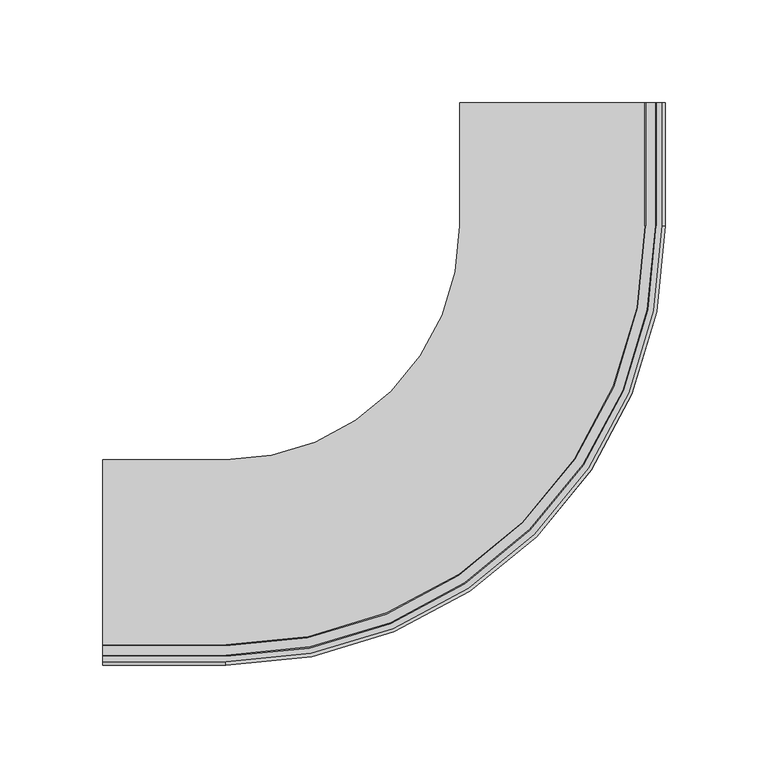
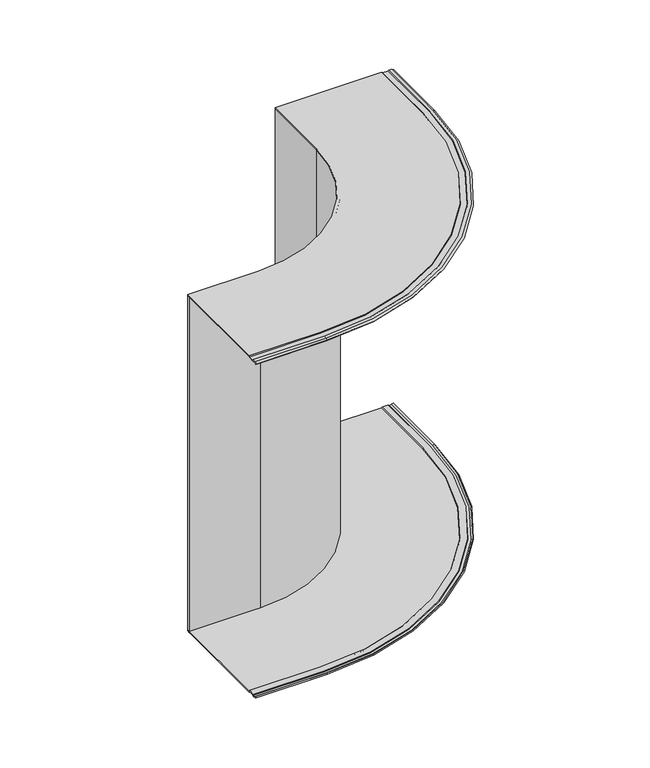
"""IFC4 building model written with IfcOpenShell, lengths in millimetres: cable carrier fitting geometry, CXERC_Vertical_Outside_Bend-Basortray : Basortray CXERC-GS."""

from ifc_helpers import new_model, si_unit, point, frame, frame_2d, origin, place, context, project, spatial, polyline, circle_curve, trimmed, segment, composite_curve, outline, extrude, source, transform, mapped, element, save
from ifc_brep_helpers import plane_surface, revolved_surface, advanced_brep


def cable_carrier_fitting_583218a9(model_context):
    return source(origin(), model_context, "Body", "SolidModel", [
        advanced_brep(
        [(40.0, 224.0, 150.0), (40.6279591, 224.0, 149.3720409), (45.1162288, 224.0, 149.3720409), (45.7441879, 224.0, 150.0), (48.3605738, 224.0, 150.0), (50.0, 224.0, 148.8520614), (49.4264236, 224.0, 148.0329093), (48.045275, 224.0, 149.0), (46.1584014, 224.0, 149.0), (45.5304423, 224.0, 148.3720409), (40.2137455, 224.0, 148.3720409), (39.5857864, 224.0, 149.0), (-50.0, 224.0, 149.0), (-50.0, 224.0, 150.0), (40.0, 164.0, 150.0), (40.6279591, 164.0, 149.3720409), (-164.0, -40.6279591, 149.3720409), (-224.0, -40.6279591, 149.3720409), (-224.0, -45.1162288, 149.3720409), (-164.0, -45.1162288, 149.3720409), (45.1162288, 164.0, 149.3720409), (45.7441879, 164.0, 150.0), (-164.0, -45.7441879, 150.0), (-224.0, -45.7441879, 150.0), (-224.0, -48.3605738, 150.0), (-164.0, -48.3605738, 150.0), (48.3605738, 164.0, 150.0), (50.0, 164.0, 148.8520614), (49.4264236, 164.0, 148.0329093), (48.045275, 164.0, 149.0), (-164.0, -48.045275, 149.0), (-224.0, -48.045275, 149.0), (-224.0, -46.1584014, 149.0), (-164.0, -46.1584014, 149.0), (46.1584014, 164.0, 149.0), (45.5304423, 164.0, 148.3720409), (-164.0, -45.5304423, 148.3720409), (-224.0, -45.5304423, 148.3720409), (-224.0, -40.2137455, 148.3720409), (-164.0, -40.2137455, 148.3720409), (40.2137455, 164.0, 148.3720409), (39.5857864, 164.0, 149.0), (-164.0, -39.5857864, 149.0), (-224.0, -39.5857864, 149.0), (-224.0, 50.0, 149.0), (-164.0, 50.0, 149.0), (-50.0, 164.0, 149.0), (-50.0, 164.0, 150.0), (-164.0, 50.0, 150.0), (-224.0, 50.0, 150.0), (-224.0, -40.0, 150.0), (-164.0, -40.0, 150.0), (-164.0, -50.0, 148.8520614), (-164.0, -49.4264236, 148.0329093), (-224.0, -49.4264236, 148.0329093), (-224.0, -50.0, 148.8520614)],
        [
            (0, 1),
            (1, 2),
            (2, 3),
            (3, 4),
            (4, 5),
            (5, 6),
            (6, 7),
            (7, 8),
            (8, 9),
            (9, 10),
            (10, 11),
            (11, 12),
            (12, 13),
            (13, 0),
            (0, 14),
            (14, 15),
            (15, 1),
            (15, 16, circle_curve(frame((-164.0, 164.0, 149.3720409), z_axis=(0.0, 0.0, -1.0), x_axis=(1.0, 0.0, 0.0)), 204.6279591)),
            (16, 17),
            (17, 18),
            (18, 19),
            (19, 20, circle_curve(frame((-164.0, 164.0, 149.3720409), z_axis=(0.0, 0.0, 1.0), x_axis=(1.0, 0.0, 0.0)), 209.1162288)),
            (20, 2),
            (20, 21),
            (21, 3),
            (21, 22, circle_curve(frame((-164.0, 164.0, 150.0), z_axis=(0.0, 0.0, -1.0), x_axis=(1.0, 0.0, 0.0)), 209.7441879)),
            (22, 23),
            (23, 24),
            (24, 25),
            (25, 26, circle_curve(frame((-164.0, 164.0, 150.0), z_axis=(0.0, 0.0, 1.0), x_axis=(1.0, 0.0, 0.0)), 212.3605738)),
            (26, 4),
            (26, 27),
            (27, 5),
            (27, 28),
            (28, 6),
            (28, 29),
            (29, 7),
            (29, 30, circle_curve(frame((-164.0, 164.0, 149.0), z_axis=(0.0, 0.0, -1.0), x_axis=(1.0, 0.0, 0.0)), 212.045275)),
            (30, 31),
            (31, 32),
            (32, 33),
            (33, 34, circle_curve(frame((-164.0, 164.0, 149.0), z_axis=(0.0, 0.0, 1.0), x_axis=(1.0, 0.0, 0.0)), 210.1584014)),
            (34, 8),
            (34, 35),
            (35, 9),
            (35, 36, circle_curve(frame((-164.0, 164.0, 148.3720409), z_axis=(0.0, 0.0, -1.0), x_axis=(1.0, 0.0, 0.0)), 209.5304423)),
            (36, 37),
            (37, 38),
            (38, 39),
            (39, 40, circle_curve(frame((-164.0, 164.0, 148.3720409), z_axis=(0.0, 0.0, 1.0), x_axis=(1.0, 0.0, 0.0)), 204.2137455)),
            (40, 10),
            (40, 41),
            (41, 11),
            (41, 42, circle_curve(frame((-164.0, 164.0, 149.0), z_axis=(0.0, 0.0, -1.0), x_axis=(1.0, 0.0, 0.0)), 203.5857864)),
            (42, 43),
            (43, 44),
            (44, 45),
            (45, 46, circle_curve(frame((-164.0, 164.0, 149.0), z_axis=(0.0, 0.0, 1.0), x_axis=(1.0, 0.0, 0.0)), 114.0)),
            (46, 12),
            (46, 47),
            (47, 13),
            (47, 48, circle_curve(frame((-164.0, 164.0, 150.0), z_axis=(0.0, 0.0, -1.0), x_axis=(1.0, 0.0, 0.0)), 114.0)),
            (48, 49),
            (49, 50),
            (50, 51),
            (51, 14, circle_curve(frame((-164.0, 164.0, 150.0), z_axis=(0.0, 0.0, 1.0), x_axis=(1.0, 0.0, 0.0)), 204.0)),
            (51, 16),
            (19, 22),
            (52, 27, circle_curve(frame((-164.0, 164.0, 148.8520614), z_axis=(0.0, 0.0, 1.0), x_axis=(1.0, 0.0, 0.0)), 214.0)),
            (25, 52),
            (53, 28, circle_curve(frame((-164.0, 164.0, 148.0329093), z_axis=(0.0, 0.0, 1.0), x_axis=(1.0, 0.0, 0.0)), 213.4264236)),
            (52, 53),
            (53, 30),
            (33, 36),
            (39, 42),
            (45, 48),
            (49, 44),
            (43, 38),
            (37, 32),
            (31, 54),
            (54, 55),
            (55, 24),
            (23, 18),
            (17, 50),
            (55, 52),
            (54, 53),
        ],
        [
            plane_surface(frame((-50.0, 224.0, 0.0), z_axis=(0.0, 1.0, 0.0), x_axis=(0.0, 0.0, 1.0))),
            plane_surface(frame((40.0, 224.0, 150.0), z_axis=(0.7071067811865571, 0.0, 0.707106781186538), x_axis=(0.0, -1.0, 0.0))),
            plane_surface(frame((40.6279591, 224.0, 149.3720409), z_axis=(0.0, 0.0, 1.0), x_axis=(0.0, -1.0, 0.0))),
            plane_surface(frame((45.1162288, 224.0, 149.3720409), z_axis=(-0.7071067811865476, 0.0, 0.7071067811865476), x_axis=(0.0, -1.0, 0.0))),
            plane_surface(frame((45.7441879, 224.0, 150.0), z_axis=(0.0, 0.0, 1.0), x_axis=(0.0, -1.0, 0.0))),
            plane_surface(frame((48.3605738, 224.0, 150.0), z_axis=(0.5735764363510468, 0.0, 0.8191520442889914), x_axis=(0.0, -1.0, 0.0))),
            plane_surface(frame((50.0, 224.0, 148.8520614), z_axis=(0.819152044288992, 0.0, -0.5735764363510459), x_axis=(0.0, -1.0, 0.0))),
            plane_surface(frame((49.4264236, 224.0, 148.0329093), z_axis=(-0.5735764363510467, 0.0, -0.8191520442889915), x_axis=(0.0, -1.0, 0.0))),
            plane_surface(frame((48.045275, 224.0, 149.0), z_axis=(0.0, 0.0, -1.0), x_axis=(0.0, -1.0, 0.0))),
            plane_surface(frame((46.1584014, 224.0, 149.0), z_axis=(0.7071067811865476, 0.0, -0.7071067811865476), x_axis=(0.0, -1.0, 0.0))),
            plane_surface(frame((45.5304423, 224.0, 148.3720409), z_axis=(0.0, 0.0, -1.0), x_axis=(0.0, -1.0, 0.0))),
            plane_surface(frame((40.2137455, 224.0, 148.3720409), z_axis=(-0.7071067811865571, 0.0, -0.707106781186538), x_axis=(0.0, -1.0, 0.0))),
            plane_surface(frame((39.5857864, 224.0, 149.0), z_axis=(0.0, 0.0, -1.0), x_axis=(0.0, -1.0, 0.0))),
            plane_surface(frame((-50.0, 224.0, 149.0), z_axis=(-1.0, 0.0, 0.0), x_axis=(0.0, -1.0, 0.0))),
            plane_surface(frame((-50.0, 224.0, 150.0), z_axis=(0.0, 0.0, 1.0), x_axis=(0.0, -1.0, 0.0))),
            revolved_surface(polyline([(40.0, 164.0, 150.0), (40.6279591, 164.0, 149.3720409)]), (-164.0, 164.0, 0.0), (0.0, 0.0, -1.0)),
            revolved_surface(polyline([(45.1162288, 164.0, 149.3720409), (45.7441879, 164.0, 150.0)]), (-164.0, 164.0, 0.0), (0.0, 0.0, -1.0)),
            revolved_surface(polyline([(48.3605738, 164.0, 150.0), (50.0, 164.0, 148.8520614)]), (-164.0, 164.0, 0.0), (0.0, 0.0, -1.0)),
            revolved_surface(polyline([(50.0, 164.0, 148.8520614), (49.4264236, 164.0, 148.0329093)]), (-164.0, 164.0, 0.0), (0.0, 0.0, -1.0)),
            revolved_surface(polyline([(49.4264236, 164.0, 148.0329093), (48.045275, 164.0, 149.0)]), (-164.0, 164.0, 0.0), (0.0, 0.0, -1.0)),
            revolved_surface(polyline([(46.1584014, 164.0, 149.0), (45.5304423, 164.0, 148.3720409)]), (-164.0, 164.0, 0.0), (0.0, 0.0, -1.0)),
            revolved_surface(polyline([(40.2137455, 164.0, 148.3720409), (39.5857864, 164.0, 149.0)]), (-164.0, 164.0, 0.0), (0.0, 0.0, -1.0)),
            revolved_surface(polyline([(-50.0, 164.0, 149.0), (-50.0, 164.0, 150.0)]), (-164.0, 164.0, 0.0), (0.0, 0.0, -1.0)),
            plane_surface(frame((-224.0, 50.0, 0.0), z_axis=(-1.0, 0.0, 0.0), x_axis=(0.0, 0.0, 1.0))),
            plane_surface(frame((-164.0, -40.0, 150.0), z_axis=(0.0, -0.7071067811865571, 0.707106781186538), x_axis=(-1.0, 0.0, 0.0))),
            plane_surface(frame((-164.0, -45.1162288, 149.3720409), z_axis=(0.0, 0.7071067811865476, 0.7071067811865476), x_axis=(-1.0, 0.0, 0.0))),
            plane_surface(frame((-164.0, -48.3605738, 150.0), z_axis=(0.0, -0.5735764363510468, 0.8191520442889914), x_axis=(-1.0, 0.0, 0.0))),
            plane_surface(frame((-164.0, -50.0, 148.8520614), z_axis=(0.0, -0.819152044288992, -0.5735764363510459), x_axis=(-1.0, 0.0, 0.0))),
            plane_surface(frame((-164.0, -49.4264236, 148.0329093), z_axis=(0.0, 0.5735764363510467, -0.8191520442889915), x_axis=(-1.0, 0.0, 0.0))),
            plane_surface(frame((-164.0, -46.1584014, 149.0), z_axis=(0.0, -0.7071067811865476, -0.7071067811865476), x_axis=(-1.0, 0.0, 0.0))),
            plane_surface(frame((-164.0, -40.2137455, 148.3720409), z_axis=(0.0, 0.7071067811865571, -0.707106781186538), x_axis=(-1.0, 0.0, 0.0))),
            plane_surface(frame((-164.0, 50.0, 149.0), z_axis=(0.0, 1.0, 0.0), x_axis=(-1.0, 0.0, 0.0))),
        ],
        [
            (0, [[1, 2, 3, 4, 5, 6, 7, 8, 9, 10, 11, 12, 13, 14]]),
            (1, [[-1, 15, 16, 17]]),
            (2, [[-2, -17, 18, 19, 20, 21, 22, 23]]),
            (3, [[-3, -23, 24, 25]]),
            (4, [[-4, -25, 26, 27, 28, 29, 30, 31]]),
            (5, [[-5, -31, 32, 33]]),
            (6, [[-6, -33, 34, 35]]),
            (7, [[-7, -35, 36, 37]]),
            (8, [[-8, -37, 38, 39, 40, 41, 42, 43]]),
            (9, [[-9, -43, 44, 45]]),
            (10, [[-10, -45, 46, 47, 48, 49, 50, 51]]),
            (11, [[-11, -51, 52, 53]]),
            (12, [[-12, -53, 54, 55, 56, 57, 58, 59]]),
            (13, [[-13, -59, 60, 61]]),
            (14, [[-14, -61, 62, 63, 64, 65, 66, -15]]),
            (15, [[-18, -16, -66, 67]]),
            (16, [[-26, -24, -22, 68]]),
            (17, [[69, -32, -30, 70]]),
            (18, [[71, -34, -69, 72]]),
            (19, [[-38, -36, -71, 73]]),
            (20, [[-46, -44, -42, 74]]),
            (21, [[-54, -52, -50, 75]]),
            (22, [[-62, -60, -58, 76]]),
            (23, [[-64, 77, -56, 78, -48, 79, -40, 80, 81, 82, -28, 83, -20, 84]]),
            (24, [[-67, -65, -84, -19]]),
            (25, [[-68, -21, -83, -27]]),
            (26, [[-70, -29, -82, 85]]),
            (27, [[-72, -85, -81, 86]]),
            (28, [[-73, -86, -80, -39]]),
            (29, [[-74, -41, -79, -47]]),
            (30, [[-75, -49, -78, -55]]),
            (31, [[-76, -57, -77, -63]]),
        ],
    ),
        advanced_brep(
        [(40.0, 224.0, -150.0), (-50.0, 224.0, -150.0), (-50.0, 224.0, -149.0), (39.5857864, 224.0, -149.0), (40.2137455, 224.0, -148.3720409), (45.5304423, 224.0, -148.3720409), (46.1584014, 224.0, -149.0), (48.045275, 224.0, -149.0), (49.4264236, 224.0, -148.0329093), (50.0, 224.0, -148.8520614), (48.3605738, 224.0, -150.0), (45.7441879, 224.0, -150.0), (45.1162288, 224.0, -149.3720409), (40.6279591, 224.0, -149.3720409), (40.0, 164.0, -150.0), (-164.0, -40.0, -150.0), (-224.0, -40.0, -150.0), (-224.0, 50.0, -150.0), (-164.0, 50.0, -150.0), (-50.0, 164.0, -150.0), (-50.0, 164.0, -149.0), (-164.0, 50.0, -149.0), (-224.0, 50.0, -149.0), (-224.0, -39.5857864, -149.0), (-164.0, -39.5857864, -149.0), (39.5857864, 164.0, -149.0), (40.2137455, 164.0, -148.3720409), (-164.0, -40.2137455, -148.3720409), (-224.0, -40.2137455, -148.3720409), (-224.0, -45.5304423, -148.3720409), (-164.0, -45.5304423, -148.3720409), (45.5304423, 164.0, -148.3720409), (46.1584014, 164.0, -149.0), (-164.0, -46.1584014, -149.0), (-224.0, -46.1584014, -149.0), (-224.0, -48.045275, -149.0), (-164.0, -48.045275, -149.0), (48.045275, 164.0, -149.0), (49.4264236, 164.0, -148.0329093), (50.0, 164.0, -148.8520614), (48.3605738, 164.0, -150.0), (-164.0, -48.3605738, -150.0), (-224.0, -48.3605738, -150.0), (-224.0, -45.7441879, -150.0), (-164.0, -45.7441879, -150.0), (45.7441879, 164.0, -150.0), (45.1162288, 164.0, -149.3720409), (-164.0, -45.1162288, -149.3720409), (-224.0, -45.1162288, -149.3720409), (-224.0, -40.6279591, -149.3720409), (-164.0, -40.6279591, -149.3720409), (40.6279591, 164.0, -149.3720409), (-164.0, -49.4264236, -148.0329093), (-164.0, -50.0, -148.8520614), (-224.0, -50.0, -148.8520614), (-224.0, -49.4264236, -148.0329093)],
        [
            (0, 1),
            (1, 2),
            (2, 3),
            (3, 4),
            (4, 5),
            (5, 6),
            (6, 7),
            (7, 8),
            (8, 9),
            (9, 10),
            (10, 11),
            (11, 12),
            (12, 13),
            (13, 0),
            (0, 14),
            (14, 15, circle_curve(frame((-164.0, 164.0, -150.0), z_axis=(0.0, 0.0, -1.0), x_axis=(1.0, 0.0, 0.0)), 204.0)),
            (15, 16),
            (16, 17),
            (17, 18),
            (18, 19, circle_curve(frame((-164.0, 164.0, -150.0), z_axis=(0.0, 0.0, 1.0), x_axis=(1.0, 0.0, 0.0)), 114.0)),
            (19, 1),
            (19, 20),
            (20, 2),
            (20, 21, circle_curve(frame((-164.0, 164.0, -149.0), z_axis=(0.0, 0.0, -1.0), x_axis=(1.0, 0.0, 0.0)), 114.0)),
            (21, 22),
            (22, 23),
            (23, 24),
            (24, 25, circle_curve(frame((-164.0, 164.0, -149.0), z_axis=(0.0, 0.0, 1.0), x_axis=(1.0, 0.0, 0.0)), 203.5857864)),
            (25, 3),
            (25, 26),
            (26, 4),
            (26, 27, circle_curve(frame((-164.0, 164.0, -148.3720409), z_axis=(0.0, 0.0, -1.0), x_axis=(1.0, 0.0, 0.0)), 204.2137455)),
            (27, 28),
            (28, 29),
            (29, 30),
            (30, 31, circle_curve(frame((-164.0, 164.0, -148.3720409), z_axis=(0.0, 0.0, 1.0), x_axis=(1.0, 0.0, 0.0)), 209.5304423)),
            (31, 5),
            (31, 32),
            (32, 6),
            (32, 33, circle_curve(frame((-164.0, 164.0, -149.0), z_axis=(0.0, 0.0, -1.0), x_axis=(1.0, 0.0, 0.0)), 210.1584014)),
            (33, 34),
            (34, 35),
            (35, 36),
            (36, 37, circle_curve(frame((-164.0, 164.0, -149.0), z_axis=(0.0, 0.0, 1.0), x_axis=(1.0, 0.0, 0.0)), 212.045275)),
            (37, 7),
            (37, 38),
            (38, 8),
            (38, 39),
            (39, 9),
            (39, 40),
            (40, 10),
            (40, 41, circle_curve(frame((-164.0, 164.0, -150.0), z_axis=(0.0, 0.0, -1.0), x_axis=(1.0, 0.0, 0.0)), 212.3605738)),
            (41, 42),
            (42, 43),
            (43, 44),
            (44, 45, circle_curve(frame((-164.0, 164.0, -150.0), z_axis=(0.0, 0.0, 1.0), x_axis=(1.0, 0.0, 0.0)), 209.7441879)),
            (45, 11),
            (45, 46),
            (46, 12),
            (46, 47, circle_curve(frame((-164.0, 164.0, -149.3720409), z_axis=(0.0, 0.0, -1.0), x_axis=(1.0, 0.0, 0.0)), 209.1162288)),
            (47, 48),
            (48, 49),
            (49, 50),
            (50, 51, circle_curve(frame((-164.0, 164.0, -149.3720409), z_axis=(0.0, 0.0, 1.0), x_axis=(1.0, 0.0, 0.0)), 204.6279591)),
            (51, 13),
            (51, 14),
            (18, 21),
            (24, 27),
            (30, 33),
            (52, 38, circle_curve(frame((-164.0, 164.0, -148.0329093), z_axis=(0.0, 0.0, 1.0), x_axis=(1.0, 0.0, 0.0)), 213.4264236)),
            (36, 52),
            (53, 39, circle_curve(frame((-164.0, 164.0, -148.8520614), z_axis=(0.0, 0.0, 1.0), x_axis=(1.0, 0.0, 0.0)), 214.0)),
            (52, 53),
            (53, 41),
            (44, 47),
            (50, 15),
            (16, 49),
            (48, 43),
            (42, 54),
            (54, 55),
            (55, 35),
            (34, 29),
            (28, 23),
            (22, 17),
            (55, 52),
            (54, 53),
        ],
        [
            plane_surface(frame((-50.0, 224.0, 0.0), z_axis=(0.0, 1.0, 0.0), x_axis=(0.0, 0.0, 1.0))),
            plane_surface(frame((40.0, 224.0, -150.0), z_axis=(0.0, 0.0, -1.0), x_axis=(0.0, -1.0, 0.0))),
            plane_surface(frame((-50.0, 224.0, -150.0), z_axis=(-1.0, 0.0, 0.0), x_axis=(0.0, -1.0, 0.0))),
            plane_surface(frame((-50.0, 224.0, -149.0), z_axis=(0.0, 0.0, 1.0), x_axis=(0.0, -1.0, 0.0))),
            plane_surface(frame((39.5857864, 224.0, -149.0), z_axis=(-0.707106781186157, 0.0, 0.7071067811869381), x_axis=(0.0, -1.0, 0.0))),
            plane_surface(frame((40.2137455, 224.0, -148.3720409), z_axis=(0.0, 0.0, 1.0), x_axis=(0.0, -1.0, 0.0))),
            plane_surface(frame((45.5304423, 224.0, -148.3720409), z_axis=(0.7071067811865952, 0.0, 0.7071067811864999), x_axis=(0.0, -1.0, 0.0))),
            plane_surface(frame((46.1584014, 224.0, -149.0), z_axis=(0.0, 0.0, 1.0), x_axis=(0.0, -1.0, 0.0))),
            plane_surface(frame((48.045275, 224.0, -149.0), z_axis=(-0.5735764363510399, 0.0, 0.8191520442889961), x_axis=(0.0, -1.0, 0.0))),
            plane_surface(frame((49.4264236, 224.0, -148.0329093), z_axis=(0.8191520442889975, 0.0, 0.5735764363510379), x_axis=(0.0, -1.0, 0.0))),
            plane_surface(frame((50.0, 224.0, -148.8520614), z_axis=(0.5735764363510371, 0.0, -0.8191520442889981), x_axis=(0.0, -1.0, 0.0))),
            plane_surface(frame((48.3605738, 224.0, -150.0), z_axis=(0.0, 0.0, -1.0), x_axis=(0.0, -1.0, 0.0))),
            plane_surface(frame((45.7441879, 224.0, -150.0), z_axis=(-0.7071067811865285, 0.0, -0.7071067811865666), x_axis=(0.0, -1.0, 0.0))),
            plane_surface(frame((45.1162288, 224.0, -149.3720409), z_axis=(0.0, 0.0, -1.0), x_axis=(0.0, -1.0, 0.0))),
            plane_surface(frame((40.6279591, 224.0, -149.3720409), z_axis=(0.7071067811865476, 0.0, -0.7071067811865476), x_axis=(0.0, -1.0, 0.0))),
            revolved_surface(polyline([(-50.0, 164.0, -150.0), (-50.0, 164.0, -149.0)]), (-164.0, 164.0, 0.0), (0.0, 0.0, -1.0)),
            revolved_surface(polyline([(39.5857864, 164.0, -149.0), (40.2137455, 164.0, -148.3720409)]), (-164.0, 164.0, 0.0), (0.0, 0.0, -1.0)),
            revolved_surface(polyline([(45.5304423, 164.0, -148.3720409), (46.1584014, 164.0, -149.0)]), (-164.0, 164.0, 0.0), (0.0, 0.0, -1.0)),
            revolved_surface(polyline([(48.045275, 164.0, -149.0), (49.4264236, 164.0, -148.0329093)]), (-164.0, 164.0, 0.0), (0.0, 0.0, -1.0)),
            revolved_surface(polyline([(49.4264236, 164.0, -148.0329093), (50.0, 164.0, -148.8520614)]), (-164.0, 164.0, 0.0), (0.0, 0.0, -1.0)),
            revolved_surface(polyline([(50.0, 164.0, -148.8520614), (48.3605738, 164.0, -150.0)]), (-164.0, 164.0, 0.0), (0.0, 0.0, -1.0)),
            revolved_surface(polyline([(45.7441879, 164.0, -150.0), (45.1162288, 164.0, -149.3720409)]), (-164.0, 164.0, 0.0), (0.0, 0.0, -1.0)),
            revolved_surface(polyline([(40.6279591, 164.0, -149.3720409), (40.0, 164.0, -150.0)]), (-164.0, 164.0, 0.0), (0.0, 0.0, -1.0)),
            plane_surface(frame((-224.0, 50.0, 0.0), z_axis=(-1.0, 0.0, 0.0), x_axis=(0.0, 0.0, 1.0))),
            plane_surface(frame((-164.0, 50.0, -150.0), z_axis=(0.0, 1.0, 0.0), x_axis=(-1.0, 0.0, 0.0))),
            plane_surface(frame((-164.0, -39.5857864, -149.0), z_axis=(0.0, 0.707106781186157, 0.7071067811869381), x_axis=(-1.0, 0.0, 0.0))),
            plane_surface(frame((-164.0, -45.5304423, -148.3720409), z_axis=(0.0, -0.7071067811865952, 0.7071067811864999), x_axis=(-1.0, 0.0, 0.0))),
            plane_surface(frame((-164.0, -48.045275, -149.0), z_axis=(0.0, 0.5735764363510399, 0.8191520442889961), x_axis=(-1.0, 0.0, 0.0))),
            plane_surface(frame((-164.0, -49.4264236, -148.0329093), z_axis=(0.0, -0.8191520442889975, 0.5735764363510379), x_axis=(-1.0, 0.0, 0.0))),
            plane_surface(frame((-164.0, -50.0, -148.8520614), z_axis=(0.0, -0.5735764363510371, -0.8191520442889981), x_axis=(-1.0, 0.0, 0.0))),
            plane_surface(frame((-164.0, -45.7441879, -150.0), z_axis=(0.0, 0.7071067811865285, -0.7071067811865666), x_axis=(-1.0, 0.0, 0.0))),
            plane_surface(frame((-164.0, -40.6279591, -149.3720409), z_axis=(0.0, -0.7071067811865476, -0.7071067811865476), x_axis=(-1.0, 0.0, 0.0))),
        ],
        [
            (0, [[1, 2, 3, 4, 5, 6, 7, 8, 9, 10, 11, 12, 13, 14]]),
            (1, [[-1, 15, 16, 17, 18, 19, 20, 21]]),
            (2, [[-2, -21, 22, 23]]),
            (3, [[-3, -23, 24, 25, 26, 27, 28, 29]]),
            (4, [[-4, -29, 30, 31]]),
            (5, [[-5, -31, 32, 33, 34, 35, 36, 37]]),
            (6, [[-6, -37, 38, 39]]),
            (7, [[-7, -39, 40, 41, 42, 43, 44, 45]]),
            (8, [[-8, -45, 46, 47]]),
            (9, [[-9, -47, 48, 49]]),
            (10, [[-10, -49, 50, 51]]),
            (11, [[-11, -51, 52, 53, 54, 55, 56, 57]]),
            (12, [[-12, -57, 58, 59]]),
            (13, [[-13, -59, 60, 61, 62, 63, 64, 65]]),
            (14, [[-14, -65, 66, -15]]),
            (15, [[-24, -22, -20, 67]]),
            (16, [[-32, -30, -28, 68]]),
            (17, [[-40, -38, -36, 69]]),
            (18, [[70, -46, -44, 71]]),
            (19, [[72, -48, -70, 73]]),
            (20, [[-52, -50, -72, 74]]),
            (21, [[-60, -58, -56, 75]]),
            (22, [[-16, -66, -64, 76]]),
            (23, [[77, -62, 78, -54, 79, 80, 81, -42, 82, -34, 83, -26, 84, -18]]),
            (24, [[-67, -19, -84, -25]]),
            (25, [[-68, -27, -83, -33]]),
            (26, [[-69, -35, -82, -41]]),
            (27, [[-71, -43, -81, 85]]),
            (28, [[-73, -85, -80, 86]]),
            (29, [[-74, -86, -79, -53]]),
            (30, [[-75, -55, -78, -61]]),
            (31, [[-76, -63, -77, -17]]),
        ],
    ),
        extrude(outline(composite_curve([segment(polyline([(-50.0, 224.0), (-47.46, 224.0), (-47.46, 164.0)]), True, "CONTINUOUS"), segment(trimmed(circle_curve(frame_2d((-164.0, 164.0)), 116.54), [point((-47.46, 164.0))], [point((-164.0, 47.46))], False, "CARTESIAN"), True, "CONTINUOUS"), segment(polyline([(-164.0, 47.46), (-224.0, 47.46), (-224.0, 50.0), (-164.0, 50.0)]), True, "CONTINUOUS"), segment(trimmed(circle_curve(frame_2d((-164.0, 164.0)), 114.0), [point((-164.0, 50.0))], [point((-50.0, 164.0))], True, "CARTESIAN"), True, "CONTINUOUS"), segment(polyline([(-50.0, 164.0), (-50.0, 224.0)]), True, "CONTINUOUS")], self_intersect=False)), frame((0.0, 0.0, -150.0), z_axis=(0.0, 0.0, 1.0), x_axis=(1.0, 0.0, 0.0)), (0.0, 0.0, 1.0), 300.0),
    ])


if __name__ == "__main__":
    model = new_model("IFC4")
    model_context = context("Model", 3, world=origin())
    ifc_project = project(units=[si_unit("LENGTHUNIT", "METRE", prefix="MILLI")], contexts=[model_context])
    site = spatial("IfcSite", under=ifc_project)
    building = spatial("IfcBuilding", under=site)
    placement = place(None, origin())
    cable_carrier_fitting_shape = cable_carrier_fitting_583218a9(model_context)
    element("IfcCableCarrierFitting", 1, ObjectType="CXERC_Vertical_Outside_Bend-Basortray : Basortray CXERC-GS", at=placement, inside=building, context=model_context, shape_type="MappedRepresentation", body=[
        mapped(cable_carrier_fitting_shape, transform((0.0, 0.0, 0.0), x_axis=(1.0, 0.0, 0.0), y_axis=(0.0, 1.0, 0.0), z_axis=(0.0, 0.0, 1.0))),
    ])
    save(model, "model.ifc")
